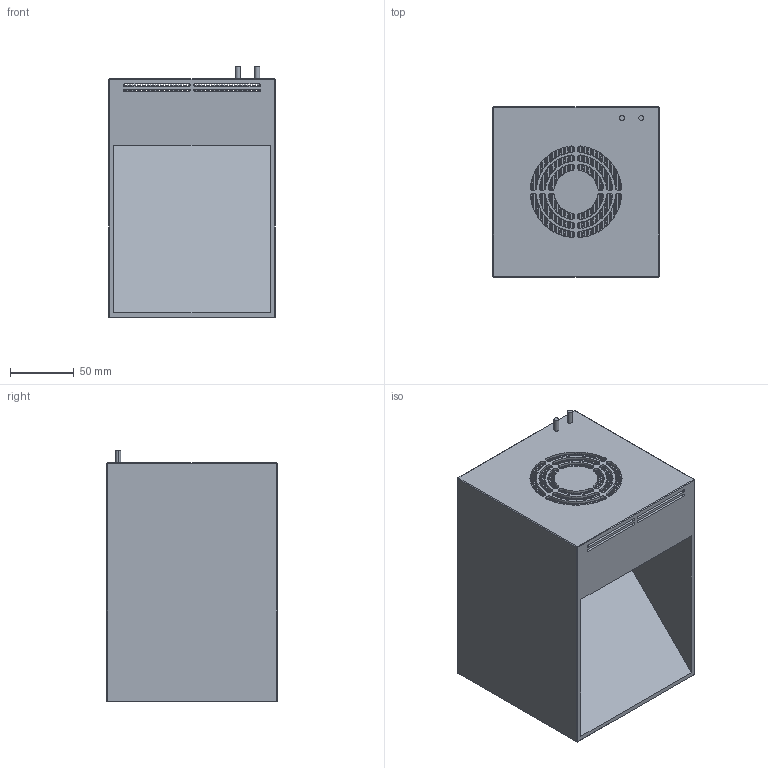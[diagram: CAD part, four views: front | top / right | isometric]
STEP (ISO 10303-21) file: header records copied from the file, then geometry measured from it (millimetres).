
FILE_DESCRIPTION (( 'STEP AP203' ), '1' );
FILE_NAME ('CO130-W.STEP', '2021-10-18T06:06:00', ( 'Windows 蚚誧' ), ( 'Microsoft' ), 'SwSTEP 2.0', 'SolidWorks 2016', '' );
FILE_SCHEMA (( 'CONFIG_CONTROL_DESIGN' ));
Length unit declared in the file: millimetre
Products named in the file (1): CO130-W
Bounding box: 130 x 133 x 197 mm (x, y, z)
Volume: 2032079.3 mm3; surface area: 459020.5 mm2
Topology: 1 solids, 7 shells, 1315 faces, 4937 edges, 2987 vertices
Faces by surface type: plane 1177, cylinder 120, cone 18
Entity records: 52010 total; most frequent: ORIENTED_EDGE 9838, CARTESIAN_POINT 9222, DIRECTION 8471, EDGE_CURVE 4919, LINE 3999, VECTOR 3999, VERTEX_POINT 2987, AXIS2_PLACEMENT_3D 2236
